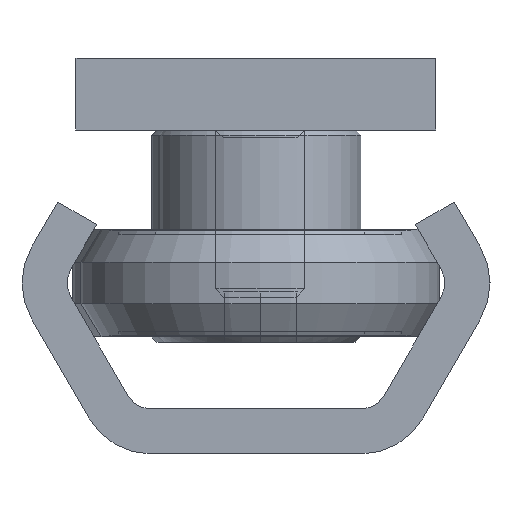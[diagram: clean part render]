
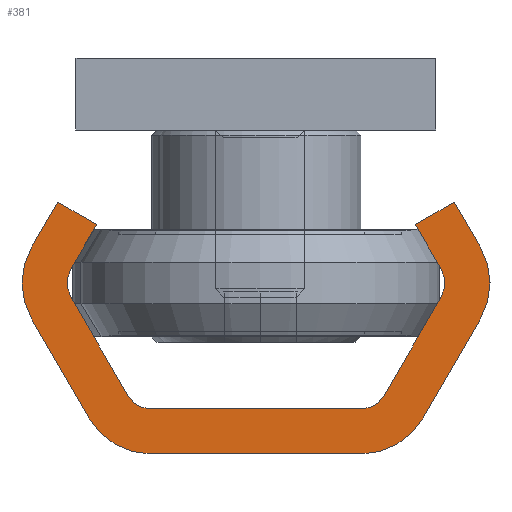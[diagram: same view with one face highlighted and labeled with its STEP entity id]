
A CAD part, left-side view. The second image highlights one B-rep face of the part: STEP entity #381.
In plain terms, the highlighted planar face has unit normal (-1, 0, 0).
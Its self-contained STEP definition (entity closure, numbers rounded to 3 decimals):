
#381 = ADVANCED_FACE( '', ( #845 ), #846, .F. );
#845 = FACE_OUTER_BOUND( '', #1625, .T. );
#846 = PLANE( '', #1626 );
#1625 = EDGE_LOOP( '', ( #2602, #2603, #2604, #2605, #2606, #2607, #2608, #2609, #2610, #2611, #2612, #2613, #2614, #2615, #2616, #2617, #2618, #2619, #2620, #2621 ) );
#1626 = AXIS2_PLACEMENT_3D( '', #2622, #2623, #2624 );
#2602 = ORIENTED_EDGE( '', *, *, #3915, .F. );
#2603 = ORIENTED_EDGE( '', *, *, #3837, .F. );
#2604 = ORIENTED_EDGE( '', *, *, #3916, .F. );
#2605 = ORIENTED_EDGE( '', *, *, #3891, .F. );
#2606 = ORIENTED_EDGE( '', *, *, #3917, .F. );
#2607 = ORIENTED_EDGE( '', *, *, #3918, .F. );
#2608 = ORIENTED_EDGE( '', *, *, #3919, .F. );
#2609 = ORIENTED_EDGE( '', *, *, #3920, .T. );
#2610 = ORIENTED_EDGE( '', *, *, #3921, .F. );
#2611 = ORIENTED_EDGE( '', *, *, #3922, .T. );
#2612 = ORIENTED_EDGE( '', *, *, #3923, .F. );
#2613 = ORIENTED_EDGE( '', *, *, #3924, .T. );
#2614 = ORIENTED_EDGE( '', *, *, #3925, .F. );
#2615 = ORIENTED_EDGE( '', *, *, #3926, .T. );
#2616 = ORIENTED_EDGE( '', *, *, #3927, .F. );
#2617 = ORIENTED_EDGE( '', *, *, #3928, .F. );
#2618 = ORIENTED_EDGE( '', *, *, #3929, .F. );
#2619 = ORIENTED_EDGE( '', *, *, #3826, .F. );
#2620 = ORIENTED_EDGE( '', *, *, #3930, .F. );
#2621 = ORIENTED_EDGE( '', *, *, #3931, .F. );
#2622 = CARTESIAN_POINT( '', ( 0., -5.825, -4. ) );
#2623 = DIRECTION( '', ( 1., 0., 0. ) );
#2624 = DIRECTION( '', ( 0., 0., -1. ) );
#3826 = EDGE_CURVE( '', #4344, #4345, #4346, .T. );
#3837 = EDGE_CURVE( '', #4361, #4362, #4363, .T. );
#3891 = EDGE_CURVE( '', #4454, #4455, #4456, .T. );
#3915 = EDGE_CURVE( '', #4362, #4495, #4496, .T. );
#3916 = EDGE_CURVE( '', #4455, #4361, #4497, .T. );
#3917 = EDGE_CURVE( '', #4498, #4454, #4499, .T. );
#3918 = EDGE_CURVE( '', #4500, #4498, #4501, .T. );
#3919 = EDGE_CURVE( '', #4502, #4500, #4503, .T. );
#3920 = EDGE_CURVE( '', #4502, #4504, #4505, .T. );
#3921 = EDGE_CURVE( '', #4506, #4504, #4507, .T. );
#3922 = EDGE_CURVE( '', #4506, #4508, #4509, .T. );
#3923 = EDGE_CURVE( '', #4510, #4508, #4511, .T. );
#3924 = EDGE_CURVE( '', #4510, #4512, #4513, .T. );
#3925 = EDGE_CURVE( '', #4514, #4512, #4515, .T. );
#3926 = EDGE_CURVE( '', #4514, #4516, #4517, .T. );
#3927 = EDGE_CURVE( '', #4518, #4516, #4519, .T. );
#3928 = EDGE_CURVE( '', #4520, #4518, #4521, .T. );
#3929 = EDGE_CURVE( '', #4345, #4520, #4522, .T. );
#3930 = EDGE_CURVE( '', #4523, #4344, #4524, .T. );
#3931 = EDGE_CURVE( '', #4495, #4523, #4525, .T. );
#4344 = VERTEX_POINT( '', #5121 );
#4345 = VERTEX_POINT( '', #5122 );
#4346 = CIRCLE( '', #5123, 4. );
#4361 = VERTEX_POINT( '', #5140 );
#4362 = VERTEX_POINT( '', #5141 );
#4363 = CIRCLE( '', #5142, 4. );
#4454 = VERTEX_POINT( '', #5252 );
#4455 = VERTEX_POINT( '', #5253 );
#4456 = CIRCLE( '', #5254, 4. );
#4495 = VERTEX_POINT( '', #5297 );
#4496 = LINE( '', #5298, #5299 );
#4497 = LINE( '', #5300, #5301 );
#4498 = VERTEX_POINT( '', #5302 );
#4499 = LINE( '', #5303, #5304 );
#4500 = VERTEX_POINT( '', #5305 );
#4501 = LINE( '', #5306, #5307 );
#4502 = VERTEX_POINT( '', #5308 );
#4503 = LINE( '', #5309, #5310 );
#4504 = VERTEX_POINT( '', #5311 );
#4505 = CIRCLE( '', #5312, 1.5 );
#4506 = VERTEX_POINT( '', #5313 );
#4507 = LINE( '', #5314, #5315 );
#4508 = VERTEX_POINT( '', #5316 );
#4509 = CIRCLE( '', #5317, 1.5 );
#4510 = VERTEX_POINT( '', #5318 );
#4511 = LINE( '', #5319, #5320 );
#4512 = VERTEX_POINT( '', #5321 );
#4513 = CIRCLE( '', #5322, 1.5 );
#4514 = VERTEX_POINT( '', #5323 );
#4515 = LINE( '', #5324, #5325 );
#4516 = VERTEX_POINT( '', #5326 );
#4517 = CIRCLE( '', #5327, 1.5 );
#4518 = VERTEX_POINT( '', #5328 );
#4519 = LINE( '', #5329, #5330 );
#4520 = VERTEX_POINT( '', #5331 );
#4521 = LINE( '', #5332, #5333 );
#4522 = LINE( '', #5334, #5335 );
#4523 = VERTEX_POINT( '', #5336 );
#4524 = LINE( '', #5337, #5338 );
#4525 = CIRCLE( '', #5339, 4. );
#5121 = CARTESIAN_POINT( '', ( 0., -12.464, -7.5 ) );
#5122 = CARTESIAN_POINT( '', ( 0., -12.464, -11.5 ) );
#5123 = AXIS2_PLACEMENT_3D( '', #6025, #6026, #6027 );
#5140 = CARTESIAN_POINT( '', ( 0., 9.289, -2. ) );
#5141 = CARTESIAN_POINT( '', ( 0., 5.825, 0. ) );
#5142 = AXIS2_PLACEMENT_3D( '', #6042, #6043, #6044 );
#5252 = CARTESIAN_POINT( '', ( 0., 12.464, -11.5 ) );
#5253 = CARTESIAN_POINT( '', ( 0., 12.464, -7.5 ) );
#5254 = AXIS2_PLACEMENT_3D( '', #6124, #6125, #6126 );
#5297 = CARTESIAN_POINT( '', ( 0., -5.825, 0. ) );
#5298 = CARTESIAN_POINT( '', ( 0., 5.825, 0. ) );
#5299 = VECTOR( '', #6167, 1000. );
#5300 = CARTESIAN_POINT( '', ( 0., 12.464, -7.5 ) );
#5301 = VECTOR( '', #6168, 1000. );
#5302 = CARTESIAN_POINT( '', ( 0., 11.021, -14. ) );
#5303 = CARTESIAN_POINT( '', ( 0., 11.021, -14. ) );
#5304 = VECTOR( '', #6169, 1000. );
#5305 = CARTESIAN_POINT( '', ( 0., 8.856, -12.75 ) );
#5306 = CARTESIAN_POINT( '', ( 0., 8.856, -12.75 ) );
#5307 = VECTOR( '', #6170, 1000. );
#5308 = CARTESIAN_POINT( '', ( 0., 10.299, -10.25 ) );
#5309 = CARTESIAN_POINT( '', ( 0., 10.299, -10.25 ) );
#5310 = VECTOR( '', #6171, 1000. );
#5311 = CARTESIAN_POINT( '', ( 0., 10.299, -8.75 ) );
#5312 = AXIS2_PLACEMENT_3D( '', #6172, #6173, #6174 );
#5313 = CARTESIAN_POINT( '', ( 0., 7.124, -3.25 ) );
#5314 = CARTESIAN_POINT( '', ( 0., 7.124, -3.25 ) );
#5315 = VECTOR( '', #6175, 1000. );
#5316 = CARTESIAN_POINT( '', ( 0., 5.825, -2.5 ) );
#5317 = AXIS2_PLACEMENT_3D( '', #6176, #6177, #6178 );
#5318 = CARTESIAN_POINT( '', ( 0., -5.825, -2.5 ) );
#5319 = CARTESIAN_POINT( '', ( 0., -5.825, -2.5 ) );
#5320 = VECTOR( '', #6179, 1000. );
#5321 = CARTESIAN_POINT( '', ( 0., -7.124, -3.25 ) );
#5322 = AXIS2_PLACEMENT_3D( '', #6180, #6181, #6182 );
#5323 = CARTESIAN_POINT( '', ( 0., -10.299, -8.75 ) );
#5324 = CARTESIAN_POINT( '', ( 0., -10.299, -8.75 ) );
#5325 = VECTOR( '', #6183, 1000. );
#5326 = CARTESIAN_POINT( '', ( 0., -10.299, -10.25 ) );
#5327 = AXIS2_PLACEMENT_3D( '', #6184, #6185, #6186 );
#5328 = CARTESIAN_POINT( '', ( 0., -8.856, -12.75 ) );
#5329 = CARTESIAN_POINT( '', ( 0., -8.856, -12.75 ) );
#5330 = VECTOR( '', #6187, 1000. );
#5331 = CARTESIAN_POINT( '', ( 0., -11.021, -14. ) );
#5332 = CARTESIAN_POINT( '', ( 0., -11.021, -14. ) );
#5333 = VECTOR( '', #6188, 1000. );
#5334 = CARTESIAN_POINT( '', ( 0., -12.464, -11.5 ) );
#5335 = VECTOR( '', #6189, 1000. );
#5336 = CARTESIAN_POINT( '', ( 0., -9.289, -2. ) );
#5337 = CARTESIAN_POINT( '', ( 0., -9.289, -2. ) );
#5338 = VECTOR( '', #6190, 1000. );
#5339 = AXIS2_PLACEMENT_3D( '', #6191, #6192, #6193 );
#6025 = CARTESIAN_POINT( '', ( 0., -9., -9.5 ) );
#6026 = DIRECTION( '', ( 1., 0., 0. ) );
#6027 = DIRECTION( '', ( 0., 0., -1. ) );
#6042 = CARTESIAN_POINT( '', ( 0., 5.825, -4. ) );
#6043 = DIRECTION( '', ( 1., 0., 0. ) );
#6044 = DIRECTION( '', ( 0., 0., -1. ) );
#6124 = CARTESIAN_POINT( '', ( 0., 9., -9.5 ) );
#6125 = DIRECTION( '', ( 1., 0., 0. ) );
#6126 = DIRECTION( '', ( 0., 0., -1. ) );
#6167 = DIRECTION( '', ( 0., -1., 0. ) );
#6168 = DIRECTION( '', ( 0., -0.5, 0.866 ) );
#6169 = DIRECTION( '', ( 0., 0.5, 0.866 ) );
#6170 = DIRECTION( '', ( 0., 0.866, -0.5 ) );
#6171 = DIRECTION( '', ( 0., -0.5, -0.866 ) );
#6172 = CARTESIAN_POINT( '', ( 0., 9., -9.5 ) );
#6173 = DIRECTION( '', ( 1., 0., 0. ) );
#6174 = DIRECTION( '', ( 0., 0., -1. ) );
#6175 = DIRECTION( '', ( 0., 0.5, -0.866 ) );
#6176 = CARTESIAN_POINT( '', ( 0., 5.825, -4. ) );
#6177 = DIRECTION( '', ( 1., 0., 0. ) );
#6178 = DIRECTION( '', ( 0., 0., -1. ) );
#6179 = DIRECTION( '', ( 0., 1., 0. ) );
#6180 = CARTESIAN_POINT( '', ( 0., -5.825, -4. ) );
#6181 = DIRECTION( '', ( 1., 0., 0. ) );
#6182 = DIRECTION( '', ( 0., 0., -1. ) );
#6183 = DIRECTION( '', ( 0., 0.5, 0.866 ) );
#6184 = CARTESIAN_POINT( '', ( 0., -9., -9.5 ) );
#6185 = DIRECTION( '', ( 1., 0., 0. ) );
#6186 = DIRECTION( '', ( 0., 0., -1. ) );
#6187 = DIRECTION( '', ( 0., -0.5, 0.866 ) );
#6188 = DIRECTION( '', ( 0., 0.866, 0.5 ) );
#6189 = DIRECTION( '', ( 0., 0.5, -0.866 ) );
#6190 = DIRECTION( '', ( 0., -0.5, -0.866 ) );
#6191 = CARTESIAN_POINT( '', ( 0., -5.825, -4. ) );
#6192 = DIRECTION( '', ( 1., 0., 0. ) );
#6193 = DIRECTION( '', ( 0., 0., -1. ) );
